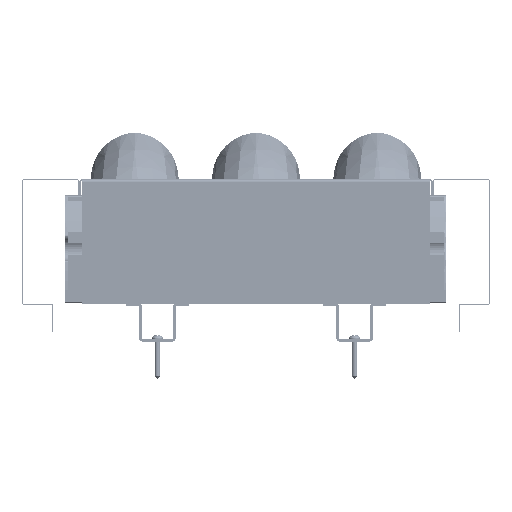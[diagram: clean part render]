
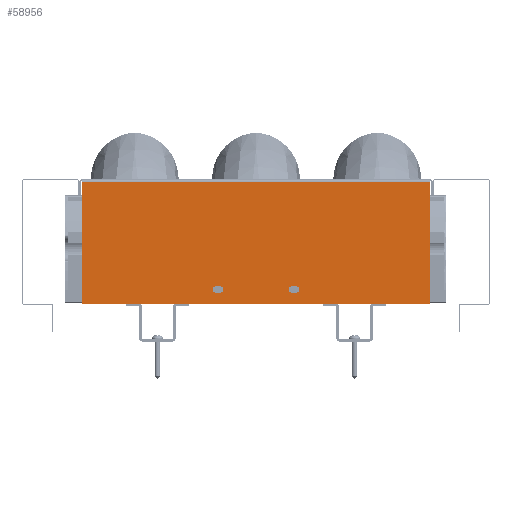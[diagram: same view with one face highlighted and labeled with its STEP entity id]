
A CAD part, front view. The second image highlights one B-rep face of the part: STEP entity #58956.
In plain terms, the highlighted planar face has unit normal (0, -1, 0).
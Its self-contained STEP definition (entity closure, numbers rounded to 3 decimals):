
#801 = EDGE_CURVE ( 'NONE', #71649, #206372, #201208, .T. ) ;
#5772 = CARTESIAN_POINT ( 'NONE',  ( -194., -21.5, 138. ) ) ;
#7380 = VERTEX_POINT ( 'NONE', #97774 ) ;
#9623 = LINE ( 'NONE', #377280, #166616 ) ;
#11769 = VECTOR ( 'NONE', #300572, 1000. ) ;
#14174 = AXIS2_PLACEMENT_3D ( 'NONE', #409199, #483199, #108135 ) ;
#15455 = EDGE_CURVE ( 'NONE', #206372, #430345, #22259, .T. ) ;
#17458 = CARTESIAN_POINT ( 'NONE',  ( -197., -21.5, -1. ) ) ;
#20055 = CIRCLE ( 'NONE', #382437, 3.5 ) ;
#22259 = CIRCLE ( 'NONE', #14174, 3.5 ) ;
#29620 = CARTESIAN_POINT ( 'NONE',  ( 40., -21.5, 11.5 ) ) ;
#34186 = CARTESIAN_POINT ( 'NONE',  ( 40., -21.5, 15. ) ) ;
#34355 = EDGE_CURVE ( 'NONE', #182524, #231941, #356162, .T. ) ;
#34473 = LINE ( 'NONE', #29620, #439217 ) ;
#38761 = CARTESIAN_POINT ( 'NONE',  ( 45., -21.5, 15. ) ) ;
#41568 = DIRECTION ( 'NONE',  ( 0., 0., 1. ) ) ;
#51639 = EDGE_CURVE ( 'NONE', #293006, #7380, #9623, .T. ) ;
#52086 = LINE ( 'NONE', #17458, #418669 ) ;
#58956 = ADVANCED_FACE ( 'NONE', ( #331098, #101536, #138526 ), #289174, .F. ) ;
#59726 = VECTOR ( 'NONE', #469979, 1000. ) ;
#61301 = ORIENTED_EDGE ( 'NONE', *, *, #210879, .F. ) ;
#61925 = CARTESIAN_POINT ( 'NONE',  ( -197., -21.5, 135. ) ) ;
#71165 = CARTESIAN_POINT ( 'NONE',  ( -45., -21.5, 11.5 ) ) ;
#71649 = VERTEX_POINT ( 'NONE', #71165 ) ;
#79724 = CARTESIAN_POINT ( 'NONE',  ( -40., -21.5, 11.5 ) ) ;
#88745 = DIRECTION ( 'NONE',  ( 0., 0., 1. ) ) ;
#97774 = CARTESIAN_POINT ( 'NONE',  ( 194., -21.5, 135. ) ) ;
#101536 = FACE_BOUND ( 'NONE', #422634, .T. ) ;
#104876 = ORIENTED_EDGE ( 'NONE', *, *, #378855, .F. ) ;
#108135 = DIRECTION ( 'NONE',  ( 0., 0., -1. ) ) ;
#113679 = VECTOR ( 'NONE', #88745, 1000. ) ;
#116079 = CARTESIAN_POINT ( 'NONE',  ( -40., -21.5, 18.5 ) ) ;
#118220 = ORIENTED_EDGE ( 'NONE', *, *, #308043, .T. ) ;
#119855 = CARTESIAN_POINT ( 'NONE',  ( 45., -21.5, 11.5 ) ) ;
#123295 = ORIENTED_EDGE ( 'NONE', *, *, #413429, .T. ) ;
#138526 = FACE_OUTER_BOUND ( 'NONE', #365810, .T. ) ;
#144952 = DIRECTION ( 'NONE',  ( 0., -1., 0. ) ) ;
#145324 = VERTEX_POINT ( 'NONE', #255701 ) ;
#149787 = DIRECTION ( 'NONE',  ( 0., 0., -1. ) ) ;
#149845 = DIRECTION ( 'NONE',  ( 0., -1., 0. ) ) ;
#157051 = EDGE_LOOP ( 'NONE', ( #104876, #332408, #219317, #455754 ) ) ;
#159652 = ORIENTED_EDGE ( 'NONE', *, *, #207424, .F. ) ;
#162790 = CARTESIAN_POINT ( 'NONE',  ( 40., -21.5, 11.5 ) ) ;
#164451 = VERTEX_POINT ( 'NONE', #446872 ) ;
#166616 = VECTOR ( 'NONE', #414347, 1000. ) ;
#171585 = CIRCLE ( 'NONE', #447351, 3.5 ) ;
#182524 = VERTEX_POINT ( 'NONE', #295391 ) ;
#185820 = LINE ( 'NONE', #5772, #113679 ) ;
#197647 = VERTEX_POINT ( 'NONE', #260258 ) ;
#201208 = LINE ( 'NONE', #354266, #59726 ) ;
#206372 = VERTEX_POINT ( 'NONE', #79724 ) ;
#207424 = EDGE_CURVE ( 'NONE', #282303, #145324, #185820, .T. ) ;
#210879 = EDGE_CURVE ( 'NONE', #197647, #71649, #20055, .T. ) ;
#212502 = EDGE_CURVE ( 'NONE', #279251, #164451, #171585, .T. ) ;
#219317 = ORIENTED_EDGE ( 'NONE', *, *, #386399, .F. ) ;
#221512 = CARTESIAN_POINT ( 'NONE',  ( 40., -21.5, 18.5 ) ) ;
#224718 = CARTESIAN_POINT ( 'NONE',  ( -40., -21.5, 18.5 ) ) ;
#226026 = DIRECTION ( 'NONE',  ( 0., 0., 1. ) ) ;
#231941 = VERTEX_POINT ( 'NONE', #162790 ) ;
#255701 = CARTESIAN_POINT ( 'NONE',  ( -194., -21.5, 135. ) ) ;
#256674 = AXIS2_PLACEMENT_3D ( 'NONE', #296471, #370498, #372908 ) ;
#260258 = CARTESIAN_POINT ( 'NONE',  ( -45., -21.5, 18.5 ) ) ;
#263679 = EDGE_CURVE ( 'NONE', #430345, #197647, #301338, .T. ) ;
#279251 = VERTEX_POINT ( 'NONE', #119855 ) ;
#282303 = VERTEX_POINT ( 'NONE', #422612 ) ;
#289174 = PLANE ( 'NONE',  #256674 ) ;
#293006 = VERTEX_POINT ( 'NONE', #487285 ) ;
#295391 = CARTESIAN_POINT ( 'NONE',  ( 40., -21.5, 18.5 ) ) ;
#296471 = CARTESIAN_POINT ( 'NONE',  ( -197., -21.5, 138. ) ) ;
#300572 = DIRECTION ( 'NONE',  ( -1., 0., 0. ) ) ;
#301338 = LINE ( 'NONE', #224718, #432904 ) ;
#308043 = EDGE_CURVE ( 'NONE', #7380, #145324, #323538, .T. ) ;
#308665 = DIRECTION ( 'NONE',  ( -1., 0., 0. ) ) ;
#316082 = DIRECTION ( 'NONE',  ( 1., 0., 0. ) ) ;
#323507 = ORIENTED_EDGE ( 'NONE', *, *, #51639, .T. ) ;
#323538 = LINE ( 'NONE', #61925, #458715 ) ;
#325185 = AXIS2_PLACEMENT_3D ( 'NONE', #34186, #149845, #41568 ) ;
#331098 = FACE_BOUND ( 'NONE', #157051, .T. ) ;
#332408 = ORIENTED_EDGE ( 'NONE', *, *, #34355, .F. ) ;
#337473 = CARTESIAN_POINT ( 'NONE',  ( -45., -21.5, 15. ) ) ;
#354266 = CARTESIAN_POINT ( 'NONE',  ( -40., -21.5, 11.5 ) ) ;
#356162 = CIRCLE ( 'NONE', #325185, 3.5 ) ;
#365810 = EDGE_LOOP ( 'NONE', ( #159652, #123295, #323507, #118220 ) ) ;
#370498 = DIRECTION ( 'NONE',  ( 0., 1., 0. ) ) ;
#372908 = DIRECTION ( 'NONE',  ( 0., 0., -1. ) ) ;
#377280 = CARTESIAN_POINT ( 'NONE',  ( 194., -21.5, 138. ) ) ;
#378855 = EDGE_CURVE ( 'NONE', #231941, #279251, #34473, .T. ) ;
#382437 = AXIS2_PLACEMENT_3D ( 'NONE', #337473, #144952, #149787 ) ;
#386399 = EDGE_CURVE ( 'NONE', #164451, #182524, #409125, .T. ) ;
#402104 = DIRECTION ( 'NONE',  ( 1., 0., 0. ) ) ;
#409081 = ORIENTED_EDGE ( 'NONE', *, *, #801, .F. ) ;
#409125 = LINE ( 'NONE', #221512, #11769 ) ;
#409199 = CARTESIAN_POINT ( 'NONE',  ( -40., -21.5, 15. ) ) ;
#413429 = EDGE_CURVE ( 'NONE', #282303, #293006, #52086, .T. ) ;
#414347 = DIRECTION ( 'NONE',  ( 0., 0., 1. ) ) ;
#418569 = DIRECTION ( 'NONE',  ( 0., -1., 0. ) ) ;
#418669 = VECTOR ( 'NONE', #316082, 1000. ) ;
#422612 = CARTESIAN_POINT ( 'NONE',  ( -194., -21.5, -1. ) ) ;
#422634 = EDGE_LOOP ( 'NONE', ( #424015, #462738, #409081, #61301 ) ) ;
#424015 = ORIENTED_EDGE ( 'NONE', *, *, #263679, .F. ) ;
#430345 = VERTEX_POINT ( 'NONE', #116079 ) ;
#432904 = VECTOR ( 'NONE', #308665, 1000. ) ;
#439217 = VECTOR ( 'NONE', #402104, 1000. ) ;
#446872 = CARTESIAN_POINT ( 'NONE',  ( 45., -21.5, 18.5 ) ) ;
#447351 = AXIS2_PLACEMENT_3D ( 'NONE', #38761, #418569, #226026 ) ;
#455754 = ORIENTED_EDGE ( 'NONE', *, *, #212502, .F. ) ;
#458715 = VECTOR ( 'NONE', #473855, 1000. ) ;
#462738 = ORIENTED_EDGE ( 'NONE', *, *, #15455, .F. ) ;
#469979 = DIRECTION ( 'NONE',  ( 1., 0., 0. ) ) ;
#473855 = DIRECTION ( 'NONE',  ( -1., 0., 0. ) ) ;
#483199 = DIRECTION ( 'NONE',  ( 0., -1., 0. ) ) ;
#487285 = CARTESIAN_POINT ( 'NONE',  ( 194., -21.5, -1. ) ) ;
